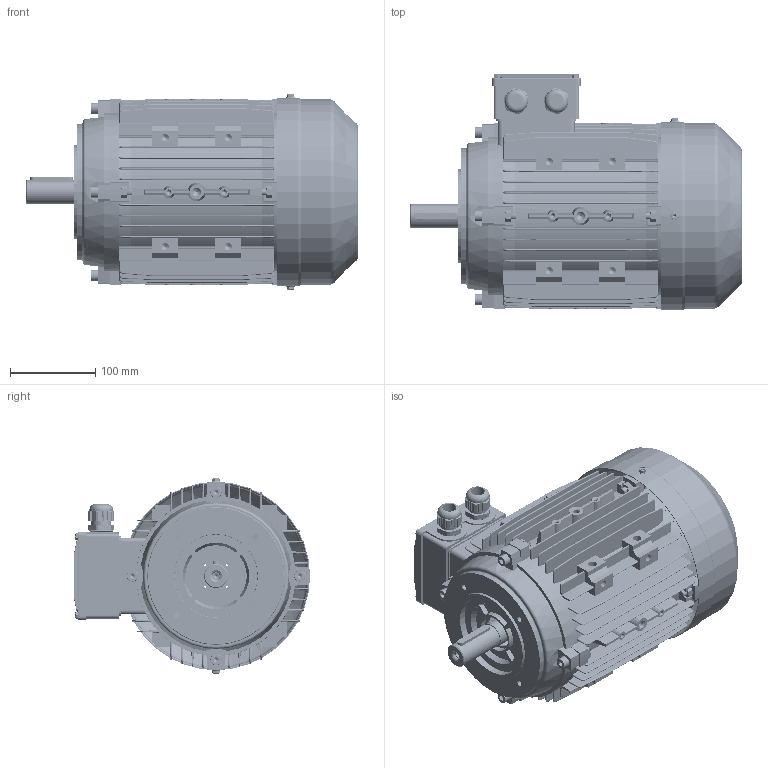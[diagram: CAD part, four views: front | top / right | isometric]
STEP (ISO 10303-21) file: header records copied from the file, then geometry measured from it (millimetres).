
FILE_DESCRIPTION (( 'STEP AP203' ), '1' );
FILE_NAME ('MSL112M assembly B14.STEP', '2017-11-26T10:03:37', ( 'user' ), ( 'china' ), 'SwSTEP 2.0', 'SolidWorks 2016', '' );
FILE_SCHEMA (( 'CONFIG_CONTROL_DESIGN' ));
Length unit declared in the file: millimetre
Products named in the file (16): MS132諉盄碟裔(苤); GB-T 29.2-1988 M5鞠褒坋趼湍菜_10; M112傷裔B14 ; M112儂褲; MS132諉盄碟釱(苤)_2Holes; GB-T 41-2000 M8; M25 cable gland; M112瑞欶_95; GB-T 70.1-2000 M8_40; M112-132諉盄碟(苤); MS112 綴裔瑞欶郪磁_95; MSL112M assembly B14; M112傷裔B3_Post; M112-Shaft drive end; GB-T 5780-2000 M8_040; GB-T 29.2-1988 M4鞠褒坋趼湍菜_05
Assembly tree (34 placements, depth 3):
  MSL112M assembly B14
    M112儂褲
    M112-Shaft drive end
    MS112 綴裔瑞欶郪磁_95
      M112傷裔B3_Post
      M112瑞欶_95
      GB-T 29.2-1988 M5鞠褒坋趼湍菜_10  x3
    M112-132諉盄碟(苤)
      MS132諉盄碟釱(苤)_2Holes
      MS132諉盄碟裔(苤)
      GB-T 29.2-1988 M4鞠褒坋趼湍菜_05  x4
      M25 cable gland  x2
    GB-T 41-2000 M8  x8
    GB-T 70.1-2000 M8_40  x4
    GB-T 5780-2000 M8_040  x4
    M112傷裔B14 
Bounding box: 389 x 276.75 x 228.7 mm (x, y, z)
Volume: 1859926.1 mm3; surface area: 1060515.7 mm2
Topology: 34 solids, 34 shells, 5224 faces, 13378 edges, 8240 vertices
Faces by surface type: plane 2084, cylinder 1377, cone 1096, bspline 444, torus 125, sphere 98
Entity records: 131370 total; most frequent: CARTESIAN_POINT 44356, ORIENTED_EDGE 18474, DIRECTION 16543, EDGE_CURVE 9237, VERTEX_POINT 5810, AXIS2_PLACEMENT_3D 5711, LINE 5121, VECTOR 5121
